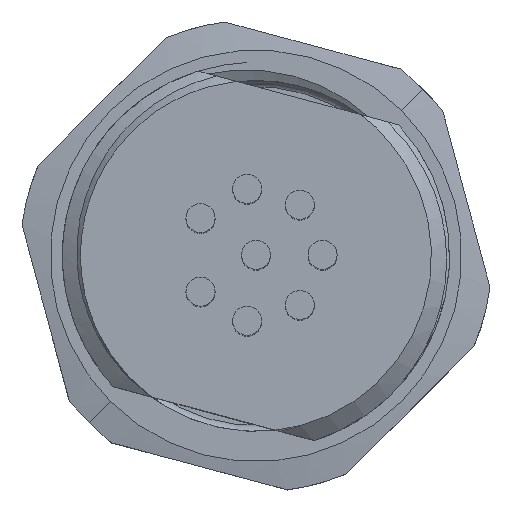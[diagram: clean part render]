
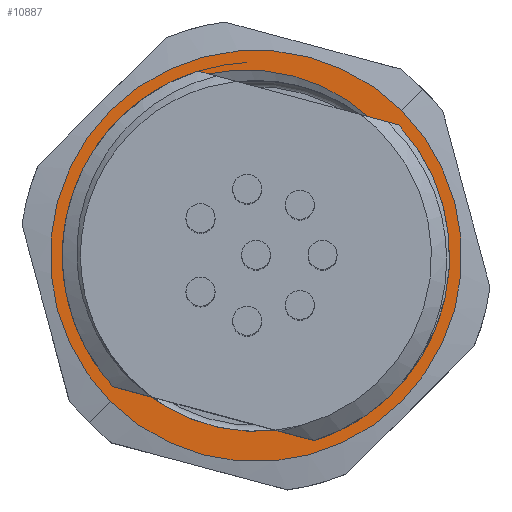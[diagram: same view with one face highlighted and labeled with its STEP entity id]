
A CAD part, top view. The second image highlights one B-rep face of the part: STEP entity #10887.
In plain terms, the highlighted planar face has unit normal (0, 0, 1).
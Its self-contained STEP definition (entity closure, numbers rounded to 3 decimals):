
#241 = EDGE_CURVE ( 'NONE', #11721, #17865, #28492, .T. ) ;
#272 = CARTESIAN_POINT ( 'NONE',  ( 13.799, 15.373, -4.879 ) ) ;
#368 = EDGE_CURVE ( 'NONE', #674, #21754, #9676, .T. ) ;
#505 = CARTESIAN_POINT ( 'NONE',  ( 5.4, 3.327, -4.879 ) ) ;
#674 = VERTEX_POINT ( 'NONE', #924 ) ;
#924 = CARTESIAN_POINT ( 'NONE',  ( 5.658, 3.191, -4.879 ) ) ;
#984 = CARTESIAN_POINT ( 'NONE',  ( 4.676, 3.806, -4.879 ) ) ;
#1264 = CARTESIAN_POINT ( 'NONE',  ( 7.284, 16.918, -4.879 ) ) ;
#1283 = FACE_OUTER_BOUND ( 'NONE', #18077, .T. ) ;
#1498 = CARTESIAN_POINT ( 'NONE',  ( 2.763, 5.946, -4.879 ) ) ;
#2292 = CARTESIAN_POINT ( 'NONE',  ( 15.338, 13.657, -4.879 ) ) ;
#2311 = FACE_BOUND ( 'NONE', #8194, .T. ) ;
#2582 = CARTESIAN_POINT ( 'NONE',  ( 15.609, 13.142, -4.879 ) ) ;
#3268 = CARTESIAN_POINT ( 'NONE',  ( 10.732, 16.908, -4.879 ) ) ;
#3773 = CARTESIAN_POINT ( 'NONE',  ( 13.574, 15.552, -4.879 ) ) ;
#3975 = CARTESIAN_POINT ( 'NONE',  ( 1.792, 10.942, -4.879 ) ) ;
#4559 = B_SPLINE_CURVE_WITH_KNOTS ( 'NONE', 3,
 ( #23339, #30814, #10975, #23816, #5492, #26840, #17378, #29353, #28360, #3975, #18888, #20860, #30328, #9987, #11464, #14931, #10464, #26311, #16869, #1498, #27338, #7959, #27824, #22848, #984, #25286, #505, #11947 ),
 .UNSPECIFIED., .F., .F.,
 ( 4, 2, 2, 2, 2, 2, 2, 2, 2, 2, 2, 2, 2, 4 ),
 ( 0., 0.002, 0.003, 0.003, 0.004, 0.005, 0.007, 0.008, 0.009, 0.01, 0.01, 0.012, 0.013, 0.014 ),
 .UNSPECIFIED. ) ;
#4772 = CARTESIAN_POINT ( 'NONE',  ( 15.609, 13.142, -4.879 ) ) ;
#5454 = AXIS2_PLACEMENT_3D ( 'NONE', #18196, #16200, #14233 ) ;
#5492 = CARTESIAN_POINT ( 'NONE',  ( 2.458, 13.138, -4.879 ) ) ;
#6215 = AXIS2_PLACEMENT_3D ( 'NONE', #8273, #21647, #13235 ) ;
#6251 = CARTESIAN_POINT ( 'NONE',  ( 14.433, 14.783, -4.879 ) ) ;
#6910 = CIRCLE ( 'NONE', #14724, 8.5 ) ;
#7959 = CARTESIAN_POINT ( 'NONE',  ( 3.414, 4.991, -4.879 ) ) ;
#8194 = EDGE_LOOP ( 'NONE', ( #21691, #9608, #22932, #23300 ) ) ;
#8273 = CARTESIAN_POINT ( 'NONE',  ( 9.4, -3.102, -4.879 ) ) ;
#8820 = DIRECTION ( 'NONE',  ( 0.707, -0.707, 0. ) ) ;
#9253 = CARTESIAN_POINT ( 'NONE',  ( 4.644, 15.785, -4.879 ) ) ;
#9441 = DIRECTION ( 'NONE',  ( 0., 0., -1. ) ) ;
#9608 = ORIENTED_EDGE ( 'NONE', *, *, #23176, .F. ) ;
#9676 = CIRCLE ( 'NONE', #19516, 7.25 ) ;
#9987 = CARTESIAN_POINT ( 'NONE',  ( 1.848, 8.361, -4.879 ) ) ;
#10275 = CARTESIAN_POINT ( 'NONE',  ( 4.175, 15.446, -4.879 ) ) ;
#10291 = PLANE ( 'NONE',  #6215 ) ;
#10464 = CARTESIAN_POINT ( 'NONE',  ( 2.152, 7.248, -4.879 ) ) ;
#10887 = ADVANCED_FACE ( 'NONE', ( #2311, #1283 ), #10291, .F. ) ;
#10975 = CARTESIAN_POINT ( 'NONE',  ( 3.016, 14.156, -4.879 ) ) ;
#11464 = CARTESIAN_POINT ( 'NONE',  ( 1.909, 8.076, -4.879 ) ) ;
#11466 = B_SPLINE_CURVE_WITH_KNOTS ( 'NONE', 3,
 ( #4772, #2292, #30610, #6251, #18662, #272, #3773, #28627, #26597, #22619, #3268, #16655, #14211, #29629, #1264, #17663, #24582, #9253, #10275, #12217 ),
 .UNSPECIFIED., .F., .F.,
 ( 4, 2, 2, 2, 2, 2, 2, 2, 2, 4 ),
 ( 0., 0.002, 0.003, 0.003, 0.005, 0.007, 0.009, 0.01, 0.012, 0.014 ),
 .UNSPECIFIED. ) ;
#11721 = VERTEX_POINT ( 'NONE', #25367 ) ;
#11947 = CARTESIAN_POINT ( 'NONE',  ( 5.658, 3.191, -4.879 ) ) ;
#12217 = CARTESIAN_POINT ( 'NONE',  ( 3.743, 15.057, -4.879 ) ) ;
#13235 = DIRECTION ( 'NONE',  ( -0.707, 0.707, 0. ) ) ;
#13388 = CARTESIAN_POINT ( 'NONE',  ( 9.4, 9.4, -4.879 ) ) ;
#14211 = CARTESIAN_POINT ( 'NONE',  ( 9.008, 17.107, -4.879 ) ) ;
#14233 = DIRECTION ( 'NONE',  ( -0.707, -0.707, 0. ) ) ;
#14724 = AXIS2_PLACEMENT_3D ( 'NONE', #13388, #9441, #30785 ) ;
#14930 = CIRCLE ( 'NONE', #20058, 7.25 ) ;
#14931 = CARTESIAN_POINT ( 'NONE',  ( 2.061, 7.52, -4.879 ) ) ;
#15160 = EDGE_CURVE ( 'NONE', #21315, #674, #4559, .T. ) ;
#15289 = EDGE_CURVE ( 'NONE', #17865, #11721, #6910, .T. ) ;
#16200 = DIRECTION ( 'NONE',  ( 0., 0., -1. ) ) ;
#16517 = DIRECTION ( 'NONE',  ( 0.707, -0.707, 0. ) ) ;
#16655 = CARTESIAN_POINT ( 'NONE',  ( 9.582, 17.085, -4.879 ) ) ;
#16869 = CARTESIAN_POINT ( 'NONE',  ( 2.487, 6.455, -4.879 ) ) ;
#17275 = ORIENTED_EDGE ( 'NONE', *, *, #15289, .F. ) ;
#17378 = CARTESIAN_POINT ( 'NONE',  ( 2.133, 12.34, -4.879 ) ) ;
#17663 = CARTESIAN_POINT ( 'NONE',  ( 6.185, 16.583, -4.879 ) ) ;
#17865 = VERTEX_POINT ( 'NONE', #30036 ) ;
#18077 = EDGE_LOOP ( 'NONE', ( #17275, #24418 ) ) ;
#18196 = CARTESIAN_POINT ( 'NONE',  ( 9.4, 9.4, -4.879 ) ) ;
#18662 = CARTESIAN_POINT ( 'NONE',  ( 14.228, 14.99, -4.879 ) ) ;
#18888 = CARTESIAN_POINT ( 'NONE',  ( 1.755, 10.653, -4.879 ) ) ;
#19516 = AXIS2_PLACEMENT_3D ( 'NONE', #27182, #24670, #8820 ) ;
#20058 = AXIS2_PLACEMENT_3D ( 'NONE', #21975, #22483, #16517 ) ;
#20642 = CARTESIAN_POINT ( 'NONE',  ( 3.743, 15.057, -4.879 ) ) ;
#20860 = CARTESIAN_POINT ( 'NONE',  ( 1.692, 9.792, -4.879 ) ) ;
#21315 = VERTEX_POINT ( 'NONE', #20642 ) ;
#21647 = DIRECTION ( 'NONE',  ( 0., 0., -1. ) ) ;
#21691 = ORIENTED_EDGE ( 'NONE', *, *, #15160, .F. ) ;
#21754 = VERTEX_POINT ( 'NONE', #21821 ) ;
#21821 = CARTESIAN_POINT ( 'NONE',  ( 14.527, 4.273, -4.879 ) ) ;
#21975 = CARTESIAN_POINT ( 'NONE',  ( 9.4, 9.4, -4.879 ) ) ;
#22483 = DIRECTION ( 'NONE',  ( 0., 0., 1. ) ) ;
#22547 = VERTEX_POINT ( 'NONE', #2582 ) ;
#22619 = CARTESIAN_POINT ( 'NONE',  ( 11.286, 16.755, -4.879 ) ) ;
#22848 = CARTESIAN_POINT ( 'NONE',  ( 4.446, 3.987, -4.879 ) ) ;
#22932 = ORIENTED_EDGE ( 'NONE', *, *, #27074, .F. ) ;
#23176 = EDGE_CURVE ( 'NONE', #22547, #21315, #11466, .T. ) ;
#23300 = ORIENTED_EDGE ( 'NONE', *, *, #368, .F. ) ;
#23339 = CARTESIAN_POINT ( 'NONE',  ( 3.743, 15.057, -4.879 ) ) ;
#23816 = CARTESIAN_POINT ( 'NONE',  ( 2.587, 13.399, -4.879 ) ) ;
#24418 = ORIENTED_EDGE ( 'NONE', *, *, #241, .F. ) ;
#24582 = CARTESIAN_POINT ( 'NONE',  ( 5.656, 16.357, -4.879 ) ) ;
#24670 = DIRECTION ( 'NONE',  ( 0., 0., 1. ) ) ;
#25286 = CARTESIAN_POINT ( 'NONE',  ( 5.152, 3.477, -4.879 ) ) ;
#25367 = CARTESIAN_POINT ( 'NONE',  ( 15.41, 15.41, -4.879 ) ) ;
#26311 = CARTESIAN_POINT ( 'NONE',  ( 2.365, 6.715, -4.879 ) ) ;
#26597 = CARTESIAN_POINT ( 'NONE',  ( 12.354, 16.326, -4.879 ) ) ;
#26840 = CARTESIAN_POINT ( 'NONE',  ( 2.231, 12.609, -4.879 ) ) ;
#27074 = EDGE_CURVE ( 'NONE', #21754, #22547, #14930, .T. ) ;
#27182 = CARTESIAN_POINT ( 'NONE',  ( 9.4, 9.4, -4.879 ) ) ;
#27338 = CARTESIAN_POINT ( 'NONE',  ( 2.917, 5.698, -4.879 ) ) ;
#27824 = CARTESIAN_POINT ( 'NONE',  ( 3.796, 4.563, -4.879 ) ) ;
#28360 = CARTESIAN_POINT ( 'NONE',  ( 1.898, 11.511, -4.879 ) ) ;
#28492 = CIRCLE ( 'NONE', #5454, 8.5 ) ;
#28627 = CARTESIAN_POINT ( 'NONE',  ( 12.87, 16.047, -4.879 ) ) ;
#29353 = CARTESIAN_POINT ( 'NONE',  ( 1.966, 11.791, -4.879 ) ) ;
#29629 = CARTESIAN_POINT ( 'NONE',  ( 7.861, 17.025, -4.879 ) ) ;
#30036 = CARTESIAN_POINT ( 'NONE',  ( 3.39, 3.39, -4.879 ) ) ;
#30328 = CARTESIAN_POINT ( 'NONE',  ( 1.715, 9.219, -4.879 ) ) ;
#30610 = CARTESIAN_POINT ( 'NONE',  ( 15.009, 14.131, -4.879 ) ) ;
#30785 = DIRECTION ( 'NONE',  ( -0.707, -0.707, 0. ) ) ;
#30814 = CARTESIAN_POINT ( 'NONE',  ( 3.354, 14.624, -4.879 ) ) ;
